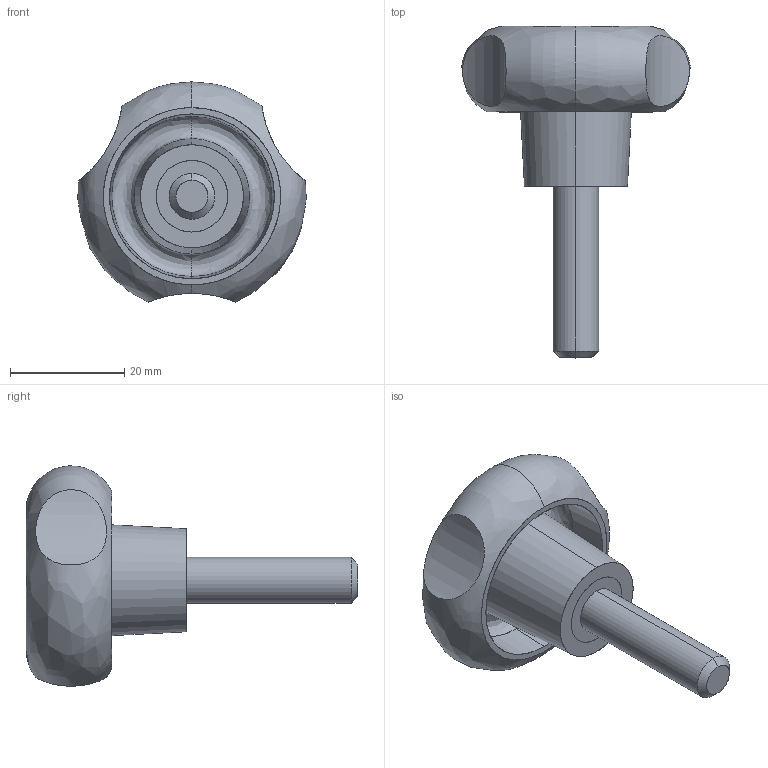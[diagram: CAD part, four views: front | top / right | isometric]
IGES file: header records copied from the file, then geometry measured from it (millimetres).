
Start section: SolidWorks IGES file using analytic representation for surfaces
Global section: file name: C:\Documents and Settings\IanO.IANOHOME\My Documents\Wix and Auto CAD Work\CAD Models\Parametric Models\Wix Models\7059\7059_IGES\7059.W082.igs; native system: SolidWorks 2009; preprocessor: SolidWorks 2009; author: IanO; date: 100907.123647; units: millimetre
Bounding box: 39.92 x 58 x 38.5 mm (x, y, z)
Surface area: 8042.7 mm2 (no closed solid volume)
Topology: 0 solids, 0 shells, 26 faces, 663 edges, 663 vertices
Faces by surface type: revolution 15, bspline 11
